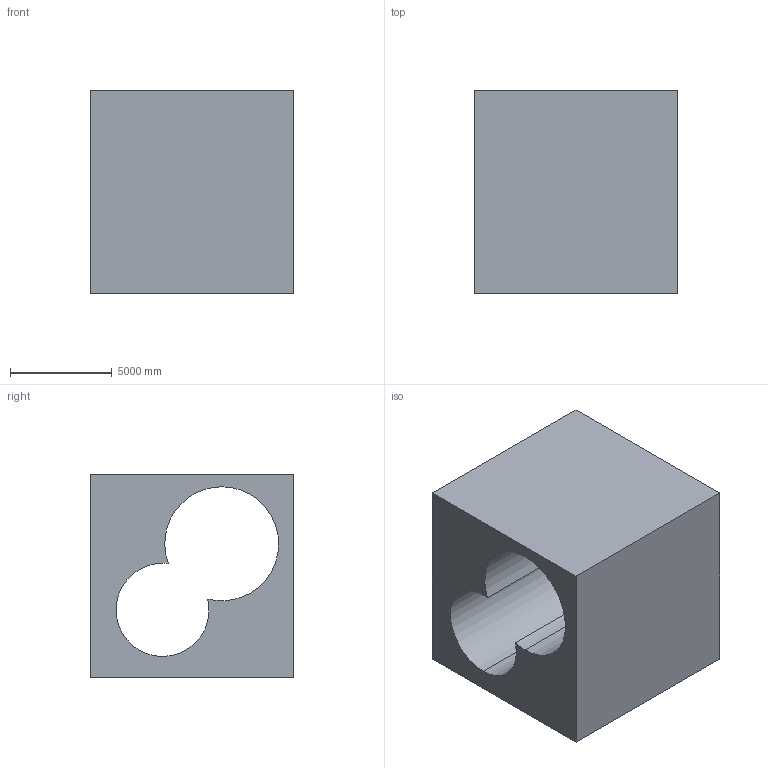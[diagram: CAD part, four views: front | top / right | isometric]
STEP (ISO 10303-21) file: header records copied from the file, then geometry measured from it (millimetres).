
FILE_DESCRIPTION (( 'STEP AP203' ), '1' );
FILE_NAME ('1064.STEP', '2022-08-18T12:37:13', ( 'user' ), ( '' ), 'SwSTEP 2.0', 'SolidWorks 2021', '' );
FILE_SCHEMA (( 'CONFIG_CONTROL_DESIGN' ));
Length unit declared in the file: centimetre
Products named in the file (1): 1064
Bounding box: 10000 x 10000 x 10000 mm (x, y, z)
Volume: 601450774706.8 mm3; surface area: 785431822 mm2
Topology: 1 solids, 1 shells, 12 faces, 30 edges, 20 vertices
Faces by surface type: cylinder 6, plane 6
Entity records: 447 total; most frequent: DIRECTION 68, CARTESIAN_POINT 63, ORIENTED_EDGE 60, EDGE_CURVE 30, AXIS2_PLACEMENT_3D 25, VERTEX_POINT 20, VECTOR 18, LINE 18
